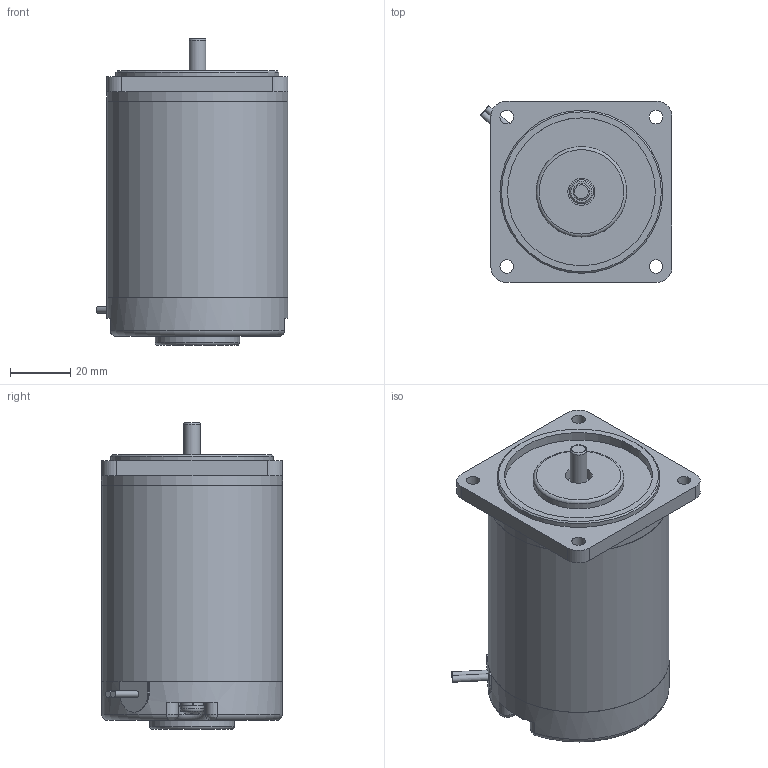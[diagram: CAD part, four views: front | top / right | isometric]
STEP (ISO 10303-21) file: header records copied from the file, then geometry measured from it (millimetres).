
FILE_DESCRIPTION((''),'2;1');
FILE_NAME('D:\연구개발부2팀 1파트\10_진행업무\3D_60각\S6D15-ㅁch.stp','2013-06-05T15:20:31',('song'),(''),'Autodesk Inventor 2011','Autodesk Inventor 2011','');
FILE_SCHEMA(('AUTOMOTIVE_DESIGN { 1 0 10303 214 1 1 1 1 }'));
Length unit declared in the file: millimetre
Products named in the file (9): S6D15-12; FRONT HOUSING; REAR HOUSING ASS'Y; REAR HOUSING; cord bush; NF EN ISO 7045 - Z M4 x 40 - 4.8 - Z; AS 1968 4; PIPE HOUSING; shaft_chisl
Assembly tree (9 placements, depth 2):
  S6D15-12
    FRONT HOUSING
    PIPE HOUSING
    shaft_chisl
  REAR HOUSING ASS'Y
    REAR HOUSING
    cord bush
    NF EN ISO 7045 - Z M4 x 40 - 4.8 - Z  x2
    AS 1968 4  x2
Bounding box: 63.59 x 60 x 101.7 mm (x, y, z)
Volume: 242248.1 mm3; surface area: 39332.6 mm2
Topology: 9 solids, 9 shells, 184 faces, 422 edges, 266 vertices
Faces by surface type: plane 82, cylinder 43, cone 36, torus 17, bspline 4, sphere 2
Full cylindrical faces by diameter (mm): 2.2 x2, 3.621 x2, 4 x2, 4.5 x6, 5.57 x1, 8 x1, 9 x1, 28 x1, 30 x1, 49 x1, 54 x1, 55 x1, 60 x3
Entity records: 4395 total; most frequent: CARTESIAN_POINT 1155, DIRECTION 675, ORIENTED_EDGE 546, AXIS2_PLACEMENT_3D 297, EDGE_CURVE 273, VERTEX_POINT 189, EDGE_LOOP 189, FACE_OUTER_BOUND 136
